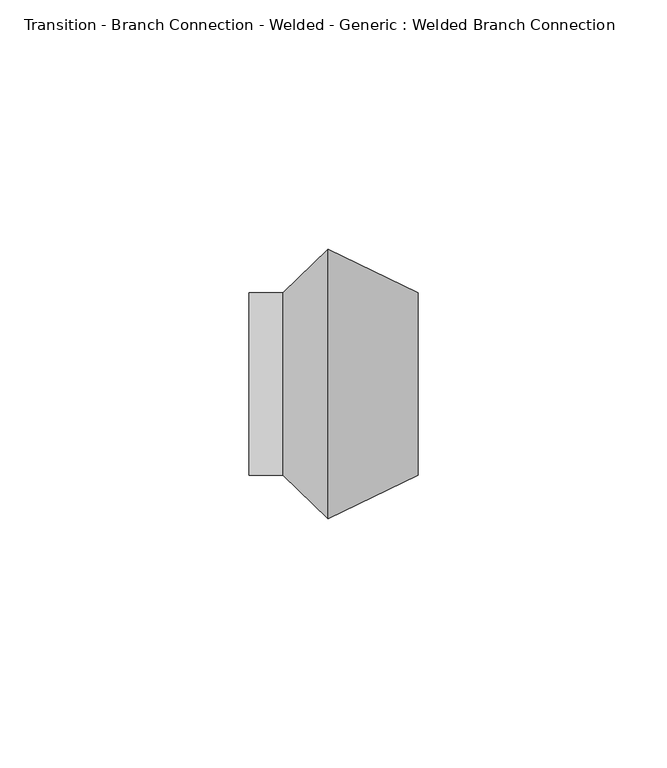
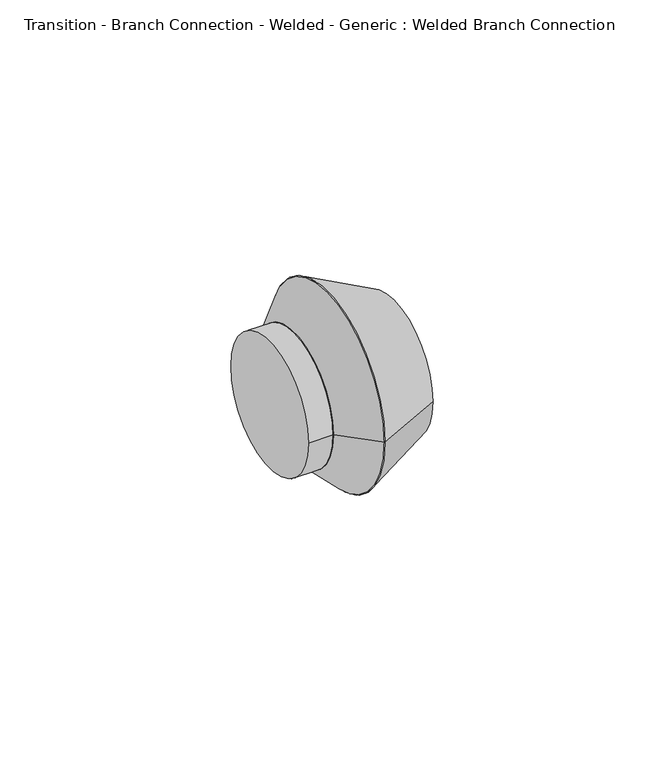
"""IFC4 building model written with IfcOpenShell, lengths in millimetres: pipe fitting geometry, Transition - Branch Connection - Welded - Generic : Welded Branch Connection."""

from ifc_helpers import new_model, si_unit, point, frame, origin, origin_2d, place, context, project, spatial, polyline, circle_curve, trimmed, segment, composite_curve, outline, extrude, source, transform, mapped, element, save
from ifc_brep_helpers import plane_surface, revolved_surface, advanced_brep


def transition_branch_connection_welded_generic_welded_branch_acf1fb2b(model_context):
    return source(origin(), model_context, "Body", "SolidModel", [
        advanced_brep(
        [(8.9958333, 26.9875, 0.0), (8.9958333, -26.9875, 0.0), (26.9875, 18.25625, 0.0), (26.9875, -18.25625, 0.0)],
        [
            (0, 1, circle_curve(frame((8.9958333, 0.0, 0.0), z_axis=(-1.0, 0.0, 0.0), x_axis=(0.0, -1.0, 0.0)), 26.9875)),
            (1, 0, circle_curve(frame((8.9958333, 0.0, 0.0), z_axis=(-1.0, 0.0, 0.0), x_axis=(0.0, 1.0, 0.0)), 26.9875)),
            (2, 3, circle_curve(frame((26.9875, 0.0, 0.0), z_axis=(1.0, 0.0, 0.0), x_axis=(0.0, 1.0, 0.0)), 18.25625)),
            (3, 2, circle_curve(frame((26.9875, 0.0, 0.0), z_axis=(1.0, 0.0, 0.0), x_axis=(0.0, -1.0, 0.0)), 18.25625)),
            (3, 1),
            (0, 2),
        ],
        [
            plane_surface(frame((8.9958333, 0.0, 0.0), z_axis=(-1.0, 0.0, 0.0), x_axis=(0.0, 0.0, -1.0))),
            plane_surface(frame((26.9875, 0.0, 0.0), z_axis=(1.0, 0.0, 0.0), x_axis=(0.0, 0.0, -1.0))),
            revolved_surface(polyline([(26.987499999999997, -18.25624999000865, 0.0), (8.995833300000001, -26.9875, 0.0)]), (64.6064394, 0.0, 0.0), (-1.0, 0.0, 0.0)),
            revolved_surface(polyline([(26.987499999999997, 18.25624999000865, 0.0), (8.995833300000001, 26.9875, 0.0)]), (64.6064394, 0.0, 0.0), (-1.0, 0.0, 0.0)),
        ],
        [
            (0, [[1, 2]]),
            (1, [[3, 4]]),
            (2, [[5, -1, 6, -4]]),
            (3, [[-6, -2, -5, -3]]),
        ],
    ),
        advanced_brep(
        [(8.9958333, 26.9875, 0.0), (8.9958333, -26.9875, 0.0), (0.0, 18.25625, 0.0), (0.0, -18.25625, 0.0)],
        [
            (0, 1, circle_curve(frame((8.9958333, 0.0, 0.0), z_axis=(1.0, 0.0, 0.0), x_axis=(0.0, -1.0, 0.0)), 26.9875)),
            (1, 0, circle_curve(frame((8.9958333, 0.0, 0.0), z_axis=(1.0, 0.0, 0.0), x_axis=(0.0, 1.0, 0.0)), 26.9875)),
            (2, 3, circle_curve(frame((0.0, 0.0, 0.0), z_axis=(-1.0, 0.0, 0.0), x_axis=(0.0, 1.0, 0.0)), 18.25625)),
            (3, 2, circle_curve(frame((0.0, 0.0, 0.0), z_axis=(-1.0, 0.0, 0.0), x_axis=(0.0, -1.0, 0.0)), 18.25625)),
            (2, 0),
            (1, 3),
        ],
        [
            plane_surface(frame((8.9958333, 0.0, 0.0), z_axis=(1.0, 0.0, 0.0), x_axis=(0.0, 0.0, -1.0))),
            plane_surface(frame((0.0, 0.0, 0.0), z_axis=(-1.0, 0.0, 0.0), x_axis=(0.0, 0.0, -1.0))),
            revolved_surface(polyline([(0.0, 18.25625002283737, 0.0), (8.995833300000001, 26.9875, 0.0)]), (-18.8094697, 0.0, 0.0), (1.0, 0.0, 0.0)),
            revolved_surface(polyline([(0.0, -18.25625002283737, 0.0), (8.995833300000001, -26.9875, 0.0)]), (-18.8094697, 0.0, 0.0), (1.0, 0.0, 0.0)),
        ],
        [
            (0, [[1, 2]]),
            (1, [[3, 4]]),
            (2, [[5, -2, 6, -3]]),
            (3, [[-6, -1, -5, -4]]),
        ],
    ),
        extrude(outline(composite_curve([segment(trimmed(circle_curve(origin_2d(), 18.25625), [point((18.25625, 0.0))], [point((-18.25625, 0.0))], False, "CARTESIAN"), True, "CONTINUOUS"), segment(trimmed(circle_curve(origin_2d(), 18.25625), [point((-18.25625, 0.0))], [point((18.25625, 0.0))], False, "CARTESIAN"), True, "CONTINUOUS")], self_intersect=False)), frame((-6.8390436, 0.0, 0.0), z_axis=(1.0, 0.0, 0.0), x_axis=(0.0, 1.0, 0.0)), (0.0, 0.0, 1.0), 6.8390436),
    ])


if __name__ == "__main__":
    model = new_model("IFC4")
    model_context = context("Model", 3, world=origin())
    ifc_project = project(units=[si_unit("LENGTHUNIT", "METRE", prefix="MILLI")], contexts=[model_context])
    site = spatial("IfcSite", under=ifc_project)
    building = spatial("IfcBuilding", under=site)
    placement = place(None, origin())
    transition_branch_connection_welded_generic_welded_branch_shape = transition_branch_connection_welded_generic_welded_branch_acf1fb2b(model_context)
    element("IfcPipeFitting", 1, ObjectType="Transition - Branch Connection - Welded - Generic : Welded Branch Connection", at=placement, inside=building, context=model_context, shape_type="MappedRepresentation", body=[
        mapped(transition_branch_connection_welded_generic_welded_branch_shape, transform((0.0, 0.0, 0.0), x_axis=(1.0, 0.0, 0.0), y_axis=(0.0, 1.0, 0.0), z_axis=(0.0, 0.0, 1.0))),
    ])
    save(model, "model.ifc")
